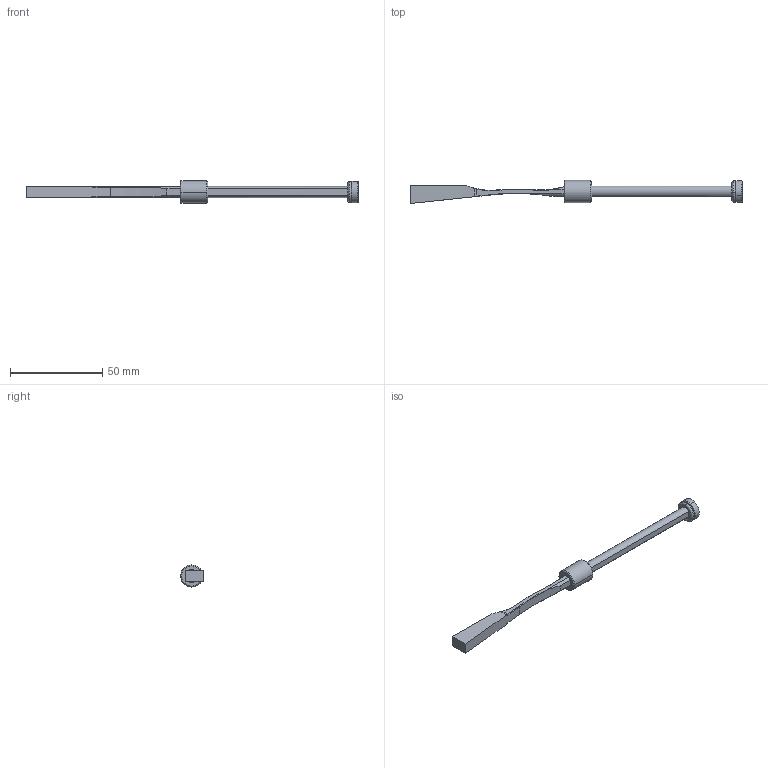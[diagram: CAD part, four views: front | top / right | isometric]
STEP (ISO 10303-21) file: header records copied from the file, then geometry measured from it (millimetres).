
FILE_DESCRIPTION (( 'STEP AP214' ), '1' );
FILE_NAME ('PW060630-Tancada.STEP', '2020-02-10T08:39:24', ( '' ), ( '' ), 'SwSTEP 2.0', 'SolidWorks 2018', '' );
FILE_SCHEMA (( 'AUTOMOTIVE_DESIGN' ));
Length unit declared in the file: millimetre
Products named in the file (6): 9CS061215; 9FP1205M4; 3JT7.5X2X11.5; 9PW060630 TANCADA; PW060630-Tancada; 1DIN7991416_DIN 7991 - M4 x 16 --- 16C
Assembly tree (5 placements, depth 2):
  PW060630-Tancada
    9PW060630 TANCADA
    9FP1205M4
    3JT7.5X2X11.5
    1DIN7991416_DIN 7991 - M4 x 16 --- 16C
    9CS061215
Bounding box: 180 x 12.5 x 12 mm (x, y, z)
Volume: 6566.4 mm3; surface area: 5881.1 mm2
Topology: 5 solids, 5 shells, 102 faces, 227 edges, 132 vertices
Faces by surface type: plane 30, cone 28, cylinder 26, torus 14, bspline 4
Entity records: 3223 total; most frequent: CARTESIAN_POINT 647, DIRECTION 507, ORIENTED_EDGE 446, EDGE_CURVE 223, AXIS2_PLACEMENT_3D 206, VERTEX_POINT 132, EDGE_LOOP 109, FACE_OUTER_BOUND 102
